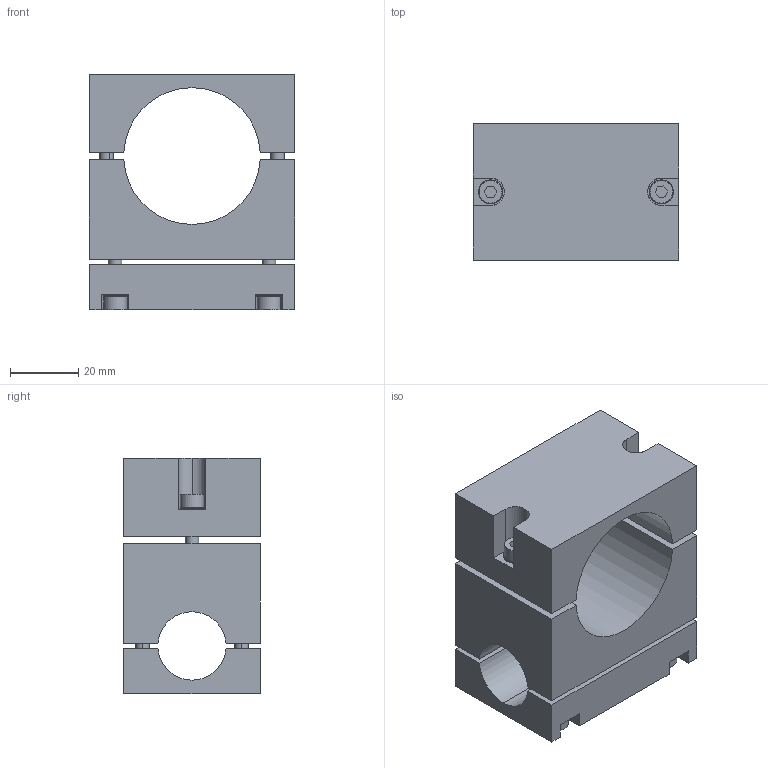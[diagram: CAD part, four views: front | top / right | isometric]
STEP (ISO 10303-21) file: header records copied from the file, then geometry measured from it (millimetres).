
FILE_DESCRIPTION (( 'STEP AP214' ), '1' );
FILE_NAME ('SMBT2-4020T.STEP', '2023-01-03T09:13:41', ( 'Windows User' ), ( 'P R C' ), 'SwSTEP 2.0', 'SolidWorks 2018', '' );
FILE_SCHEMA (( 'AUTOMOTIVE_DESIGN' ));
Length unit declared in the file: millimetre
Products named in the file (4): PTC-M4L18; SMBT2-4020; PTS-M4; SMBT2-4020T
Assembly tree (13 placements, depth 2):
  SMBT2-4020T
    SMBT2-4020
    PTC-M4L18  x6
    PTS-M4  x6
Bounding box: 60 x 40 x 69.05 mm (x, y, z)
Volume: 90331.8 mm3; surface area: 32605.8 mm2
Topology: 15 solids, 15 shells, 1219 faces, 3500 edges, 2307 vertices
Faces by surface type: plane 1064, cylinder 86, cone 69
Entity records: 10051 total; most frequent: CARTESIAN_POINT 1798, DIRECTION 1719, ORIENTED_EDGE 1644, EDGE_CURVE 822, AXIS2_PLACEMENT_3D 594, VERTEX_POINT 537, LINE 531, VECTOR 531
